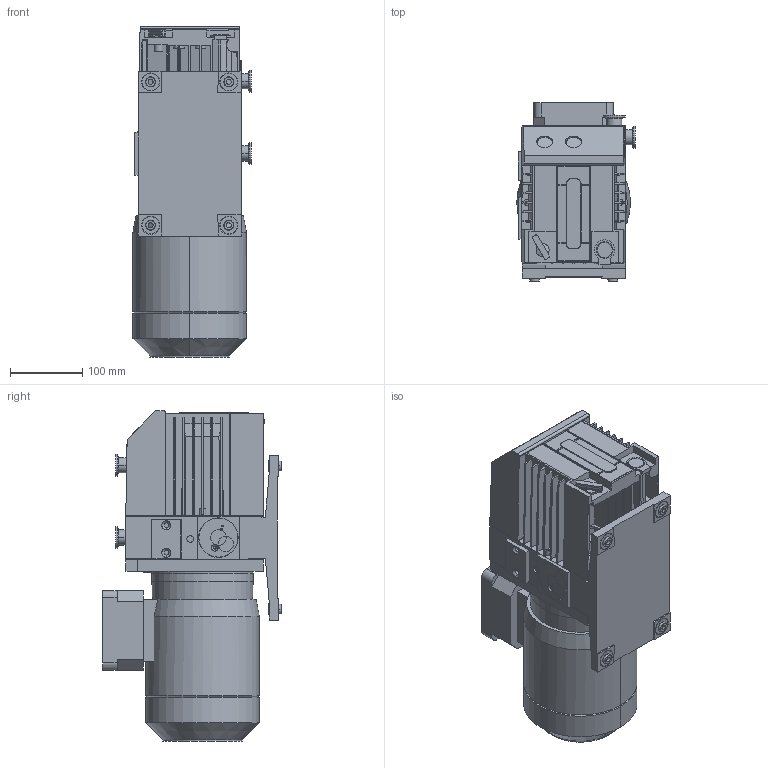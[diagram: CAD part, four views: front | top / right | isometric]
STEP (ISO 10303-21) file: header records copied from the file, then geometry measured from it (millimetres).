
FILE_DESCRIPTION((''),'2;1');
FILE_NAME('300594106_Y19_000_ASM','2016-03-09T',('56762'),('Copyright by Leybold GmbH'),'PRO/ENGINEER BY PARAMETRIC TECHNOLOGY CORPORATION, 2013320','PRO/ENGINEER BY PARAMETRIC TECHNOLOGY CORPORATION, 2013320','');
FILE_SCHEMA(('AUTOMOTIVE_DESIGN { 1 0 10303 214 1 1 1 1 }'));
Length unit declared in the file: millimetre
Products named in the file (22): 300594107_Y19_000; 300593834_Y19_000; 300593835_Y19_000; 300593838_Y19_000; 300594098_Y19_000; 300593851_Y19_000; 300593842_Y19_000; 300590946_Y19_000; 300593840_Y19_000; 300593852_Y19_000; 300594105_Y19_000_ASM; 300590938_Y19_000; 300593690_Y19_000; 300590935_Y19_000; 300590920_Y19_000; 300590916_Y19_000; 300590915_Y19_000; 300590913_Y19_000; 300590922_Y19_000_ASM; 300593862_Y19_000; 300593863_Y19_000; 300594106_Y19_000_ASM
Assembly tree (29 placements, depth 3):
  300594106_Y19_000_ASM
    300594105_Y19_000_ASM
      300594107_Y19_000
      300593834_Y19_000
      300593835_Y19_000
      300593838_Y19_000
      300594098_Y19_000
      300593851_Y19_000
      300593842_Y19_000
      300590946_Y19_000
      300593840_Y19_000
      300593852_Y19_000
    300590938_Y19_000  x4
    300593690_Y19_000
    300590935_Y19_000  x3
    300590922_Y19_000_ASM
      300590920_Y19_000
      300590916_Y19_000
      300590915_Y19_000
      300590913_Y19_000
    300593862_Y19_000  x4
    300593863_Y19_000
Bounding box: 163.5 x 247 x 456.34 mm (x, y, z)
Volume: 10709455.7 mm3; surface area: 866086.1 mm2
Topology: 26 solids, 42 shells, 1152 faces, 2904 edges, 1898 vertices
Faces by surface type: plane 729, cylinder 279, cone 142, torus 2
Entity records: 30151 total; most frequent: CARTESIAN_POINT 5650, DIRECTION 4878, ORIENTED_EDGE 4768, EDGE_CURVE 2384, VECTOR 1736, LINE 1736, AXIS2_PLACEMENT_3D 1571, VERTEX_POINT 1562
